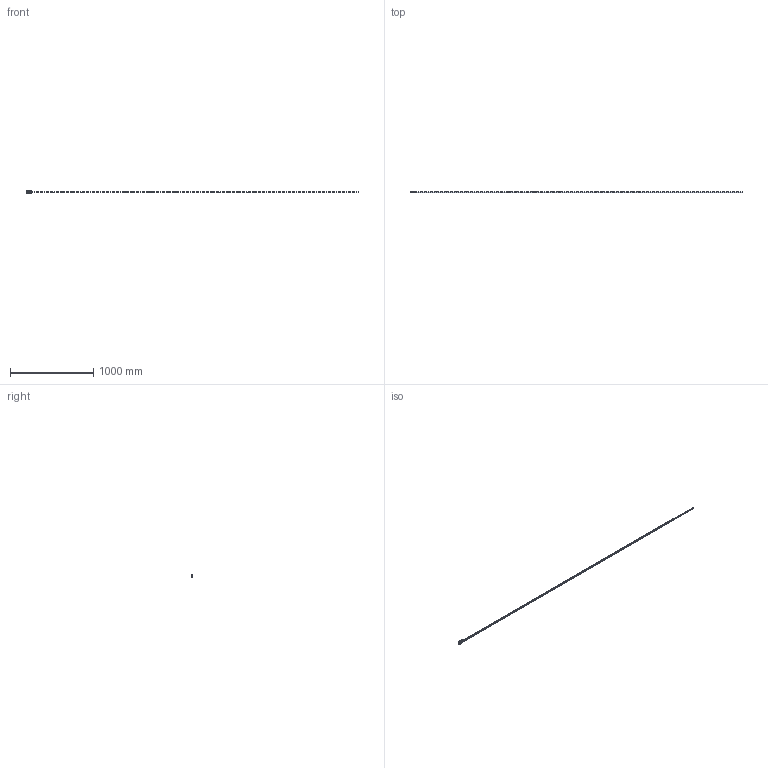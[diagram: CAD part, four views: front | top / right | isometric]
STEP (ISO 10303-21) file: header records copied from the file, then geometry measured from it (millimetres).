
FILE_DESCRIPTION( ( 'STEP AP203' ), '1' );
FILE_NAME( 'p:/temp/worker_8/temp/exporttempdir_140_737_Q8mGh/format_0/FDI12 84494NV_4000-0.stp', '2021-02-04T01:56:35', ( 'License CC BY-ND 4.0' ), ( 'CADENAS' ), ' ', 'PARTsolutions', ' ' );
FILE_SCHEMA( ( 'CONFIG_CONTROL_DESIGN' ) );
Length unit declared in the file: millimetre
Products named in the file (3): FDI12 84494NV_4000-0; _FDI K_12K-4000-0; _FDI_12K Slider
Assembly tree (2 placements, depth 2):
  FDI12 84494NV_4000-0
    _FDI K_12K-4000-0
    _FDI_12K Slider
Bounding box: 4000 x 19 x 37 mm (x, y, z)
Volume: 559577.2 mm3; surface area: 268598.1 mm2
Topology: 2 solids, 2 shells, 687 faces, 1802 edges, 1226 vertices
Faces by surface type: cylinder 374, plane 301, torus 8, cone 4
Full cylindrical faces by diameter (mm): 3.242 x4, 3.4 x100, 4.5 x4, 5.5 x8, 6 x108
Entity records: 19928 total; most frequent: DIRECTION 3610, CARTESIAN_POINT 3286, ORIENTED_EDGE 2904, AXIS2_PLACEMENT_3D 1480, EDGE_CURVE 1452, EDGE_LOOP 1252, VERTEX_POINT 1108, FACE_OUTER_BOUND 919
